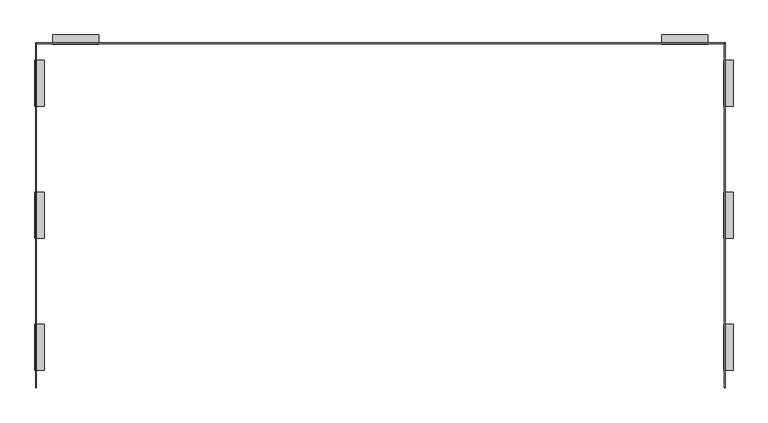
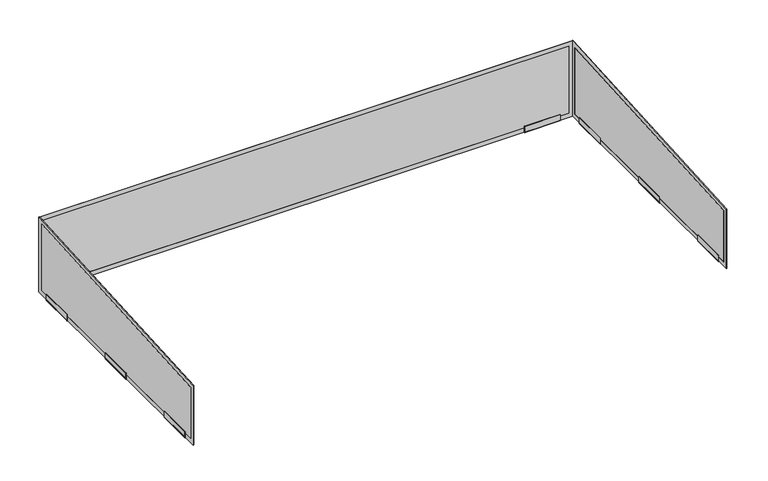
"""IFC4 building model written with IfcOpenShell, lengths in millimetres: proxy geometry, VIVA-Railings_Special-Equipment_Shadow-Box-Sun-Control-System : 1’ 6” x 5’ 0” x 10’ 0” - Aluminum 1/8''."""

from ifc_helpers import new_model, si_unit, point, frame, frame_2d, origin, place, context, project, spatial, polyline, circle_curve, trimmed, segment, composite_curve, outline, extrude, source, transform, mapped, element, save


def specialty_equipment_0ff5c432(model_context):
    return source(origin(), model_context, "Body", "SweptSolid", [
        extrude(outline(composite_curve([segment(trimmed(circle_curve(frame_2d((3.175, 1533.525)), 3.175), [point((3.175, 1530.35))], [point((0.0, 1533.525))], False, "CARTESIAN"), True, "CONTINUOUS"), segment(polyline([(0.0, 1533.525), (0.0, 1571.625), (3.175, 1571.625), (3.175, 1535.1125)]), True, "CONTINUOUS"), segment(trimmed(circle_curve(frame_2d((4.7625, 1535.1125)), 1.5875), [point((3.175, 1535.1125))], [point((4.7625, 1533.525))], True, "CARTESIAN"), True, "CONTINUOUS"), segment(polyline([(4.7625, 1533.525), (38.1, 1533.525), (38.1, 1530.35), (3.175, 1530.35)]), True, "CONTINUOUS")], self_intersect=False)), frame((0.0, -685.8, 0.0), z_axis=(0.0, 1.0, 0.0), x_axis=(0.0, 0.0, 1.0)), (0.0, 0.0, 1.0), 203.2),
        extrude(outline(composite_curve([segment(trimmed(circle_curve(frame_2d((3.175, 1533.525)), 3.175), [point((3.175, 1530.35))], [point((0.0, 1533.525))], False, "CARTESIAN"), True, "CONTINUOUS"), segment(polyline([(0.0, 1533.525), (0.0, 1571.625), (3.175, 1571.625), (3.175, 1535.1125)]), True, "CONTINUOUS"), segment(trimmed(circle_curve(frame_2d((4.7625, 1535.1125)), 1.5875), [point((3.175, 1535.1125))], [point((4.7625, 1533.525))], True, "CARTESIAN"), True, "CONTINUOUS"), segment(polyline([(4.7625, 1533.525), (38.1, 1533.525), (38.1, 1530.35), (3.175, 1530.35)]), True, "CONTINUOUS")], self_intersect=False)), frame((0.0, 482.6, 0.0), z_axis=(0.0, 1.0, 0.0), x_axis=(0.0, 0.0, 1.0)), (0.0, 0.0, 1.0), 203.2),
        extrude(outline(composite_curve([segment(polyline([(38.1, 1533.525), (38.1, 1530.35), (3.175, 1530.35)]), True, "CONTINUOUS"), segment(trimmed(circle_curve(frame_2d((3.175, 1533.525)), 3.175), [point((3.175, 1530.35))], [point((0.0, 1533.525))], False, "CARTESIAN"), True, "CONTINUOUS"), segment(polyline([(0.0, 1533.525), (0.0, 1571.625), (3.175, 1571.625), (3.175, 1535.1125)]), True, "CONTINUOUS"), segment(trimmed(circle_curve(frame_2d((4.7625, 1535.1125)), 1.5875), [point((3.175, 1535.1125))], [point((4.7625, 1533.525))], True, "CARTESIAN"), True, "CONTINUOUS"), segment(polyline([(4.7625, 1533.525), (38.1, 1533.525)]), True, "CONTINUOUS")], self_intersect=False)), frame((0.0, -101.6, 0.0), z_axis=(0.0, 1.0, 0.0), x_axis=(0.0, 0.0, 1.0)), (0.0, 0.0, 1.0), 203.2),
        extrude(outline(composite_curve([segment(polyline([(755.65, 38.1), (758.825, 38.1), (758.825, 4.7625)]), True, "CONTINUOUS"), segment(trimmed(circle_curve(frame_2d((760.4125, 4.7625)), 1.5875), [point((758.825, 4.7625))], [point((760.4125, 3.175))], True, "CARTESIAN"), True, "CONTINUOUS"), segment(polyline([(760.4125, 3.175), (796.925, 3.175), (796.925, 0.0), (760.015625, 0.0)]), True, "CONTINUOUS"), segment(trimmed(circle_curve(frame_2d((760.015625, 4.365625)), 4.365625), [point((760.015625, 0.0))], [point((755.65, 4.365625))], False, "CARTESIAN"), True, "CONTINUOUS"), segment(polyline([(755.65, 4.365625), (755.65, 38.1)]), True, "CONTINUOUS")], self_intersect=False)), frame((1257.3, 0.0, 0.0), z_axis=(1.0, 0.0, 0.0), x_axis=(0.0, 1.0, 0.0)), (0.0, 0.0, 1.0), 203.2),
        extrude(outline(composite_curve([segment(polyline([(755.65, 4.365625), (755.65, 38.1), (758.825, 38.1), (758.825, 4.7625)]), True, "CONTINUOUS"), segment(trimmed(circle_curve(frame_2d((760.4125, 4.7625)), 1.5875), [point((758.825, 4.7625))], [point((760.4125, 3.175))], True, "CARTESIAN"), True, "CONTINUOUS"), segment(polyline([(760.4125, 3.175), (796.925, 3.175), (796.925, 0.0), (760.015625, 0.0)]), True, "CONTINUOUS"), segment(trimmed(circle_curve(frame_2d((760.015625, 4.365625)), 4.365625), [point((760.015625, 0.0))], [point((755.65, 4.365625))], False, "CARTESIAN"), True, "CONTINUOUS")], self_intersect=False)), frame((-1435.1, 0.0, 0.0), z_axis=(1.0, 0.0, 0.0), x_axis=(0.0, 1.0, 0.0)), (0.0, 0.0, 1.0), 203.2),
        extrude(outline(composite_curve([segment(trimmed(circle_curve(frame_2d((3.175, -1511.3)), 3.175), [point((3.175, -1514.475))], [point((0.0, -1511.3))], False, "CARTESIAN"), True, "CONTINUOUS"), segment(polyline([(0.0, -1511.3), (0.0, -1473.2), (3.175, -1473.2), (3.175, -1509.7125)]), True, "CONTINUOUS"), segment(trimmed(circle_curve(frame_2d((4.7625, -1509.7125)), 1.5875), [point((3.175, -1509.7125))], [point((4.7625, -1511.3))], True, "CARTESIAN"), True, "CONTINUOUS"), segment(polyline([(4.7625, -1511.3), (38.1, -1511.3), (38.1, -1514.475), (3.175, -1514.475)]), True, "CONTINUOUS")], self_intersect=False)), frame((0.0, 482.6, 0.0), z_axis=(0.0, 1.0, 0.0), x_axis=(0.0, 0.0, 1.0)), (0.0, 0.0, 1.0), 203.2),
        extrude(outline(composite_curve([segment(polyline([(38.1, -1511.3), (38.1, -1514.475), (3.175, -1514.475)]), True, "CONTINUOUS"), segment(trimmed(circle_curve(frame_2d((3.175, -1511.3)), 3.175), [point((3.175, -1514.475))], [point((0.0, -1511.3))], False, "CARTESIAN"), True, "CONTINUOUS"), segment(polyline([(0.0, -1511.3), (0.0, -1473.2), (3.175, -1473.2), (3.175, -1509.7125)]), True, "CONTINUOUS"), segment(trimmed(circle_curve(frame_2d((4.7625, -1509.7125)), 1.5875), [point((3.175, -1509.7125))], [point((4.7625, -1511.3))], True, "CARTESIAN"), True, "CONTINUOUS"), segment(polyline([(4.7625, -1511.3), (38.1, -1511.3)]), True, "CONTINUOUS")], self_intersect=False)), frame((0.0, -101.6, 0.0), z_axis=(0.0, 1.0, 0.0), x_axis=(0.0, 0.0, 1.0)), (0.0, 0.0, 1.0), 203.2),
        extrude(outline(polyline([(1511.3, 758.825), (-1485.9, 758.825), (-1485.9, 762.0), (1511.3, 762.0), (1511.3, 758.825)])), frame((0.0, 0.0, 28.575), z_axis=(0.0, 0.0, 1.0), x_axis=(1.0, 0.0, 0.0)), (0.0, 0.0, 1.0), 403.225),
        extrude(outline(polyline([(457.2, 1533.525), (457.2, -1508.125), (3.175, -1508.125), (3.175, 1533.525), (457.2, 1533.525)]), holes=[polyline([(431.8, 1511.3), (28.575, 1511.3), (28.575, -1485.9), (431.8, -1485.9), (431.8, 1511.3)])]), frame((0.0, 758.825, 0.0), z_axis=(0.0, 1.0, 0.0), x_axis=(0.0, 0.0, 1.0)), (0.0, 0.0, 1.0), 3.175),
        extrude(outline(polyline([(-762.0, 361.95), (758.825, 457.2), (762.0, 457.2), (762.0, 3.175), (-762.0, 3.175), (-762.0, 361.95)]), holes=[polyline([(-736.6, 338.0910462), (-736.6, 28.575), (736.6, 28.575), (736.6, 430.3582696), (-736.6, 338.0910462)])]), frame((1533.525, 0.0, 0.0), z_axis=(1.0, 0.0, 0.0), x_axis=(0.0, 1.0, 0.0)), (0.0, 0.0, 1.0), 3.175),
        extrude(outline(polyline([(736.6, 430.3582696), (736.6, 28.575), (-736.6, 28.575), (-736.6, 338.0910462), (736.6, 430.3582696)])), frame((1533.525, 0.0, 0.0), z_axis=(1.0, 0.0, 0.0), x_axis=(0.0, 1.0, 0.0)), (0.0, 0.0, 1.0), 3.175),
        extrude(outline(polyline([(-762.0, 361.95), (758.825, 457.2), (762.0, 457.2), (762.0, 3.175), (-762.0, 3.175), (-762.0, 361.95)]), holes=[polyline([(-736.6, 338.0910462), (-736.6, 28.575), (736.6, 28.575), (736.6, 430.3582696), (-736.6, 338.0910462)])]), frame((-1511.3, 0.0, 0.0), z_axis=(1.0, 0.0, 0.0), x_axis=(0.0, 1.0, 0.0)), (0.0, 0.0, 1.0), 3.175),
        extrude(outline(composite_curve([segment(trimmed(circle_curve(frame_2d((3.175, -1511.3)), 3.175), [point((3.175, -1514.475))], [point((0.0, -1511.3))], False, "CARTESIAN"), True, "CONTINUOUS"), segment(polyline([(0.0, -1511.3), (0.0, -1473.2), (3.175, -1473.2), (3.175, -1509.7125)]), True, "CONTINUOUS"), segment(trimmed(circle_curve(frame_2d((4.7625, -1509.7125)), 1.5875), [point((3.175, -1509.7125))], [point((4.7625, -1511.3))], True, "CARTESIAN"), True, "CONTINUOUS"), segment(polyline([(4.7625, -1511.3), (38.1, -1511.3), (38.1, -1514.475), (3.175, -1514.475)]), True, "CONTINUOUS")], self_intersect=False)), frame((0.0, -685.8, 0.0), z_axis=(0.0, 1.0, 0.0), x_axis=(0.0, 0.0, 1.0)), (0.0, 0.0, 1.0), 203.2),
        extrude(outline(polyline([(-736.6, 338.0910462), (736.6, 430.3582696), (736.6, 28.575), (-736.6, 28.575), (-736.6, 338.0910462)])), frame((-1511.3, 0.0, 0.0), z_axis=(1.0, 0.0, 0.0), x_axis=(0.0, 1.0, 0.0)), (0.0, 0.0, 1.0), 3.175),
    ])


if __name__ == "__main__":
    model = new_model("IFC4")
    model_context = context("Model", 3, world=origin())
    ifc_project = project(units=[si_unit("LENGTHUNIT", "METRE", prefix="MILLI")], contexts=[model_context])
    site = spatial("IfcSite", under=ifc_project)
    building = spatial("IfcBuilding", under=site)
    placement = place(None, origin())
    specialty_equipment_shape = specialty_equipment_0ff5c432(model_context)
    element("IfcBuildingElementProxy", 1, Name="VIVA-Railings_Special-Equipment_Shadow-Box-Sun-Control-System : 1’ 6” x 5’ 0” x 10’ 0” - Aluminum 1/8''", ObjectType="VIVA-Railings_Special-Equipment_Shadow-Box-Sun-Control-System : 1’ 6” x 5’ 0” x 10’ 0” - Aluminum 1/8''", at=placement, inside=building, context=model_context, shape_type="MappedRepresentation", body=[
        mapped(specialty_equipment_shape, transform((0.0, 0.0, 0.0), x_axis=(1.0, 0.0, 0.0), y_axis=(0.0, 1.0, 0.0), z_axis=(0.0, 0.0, 1.0))),
    ])
    save(model, "model.ifc")
